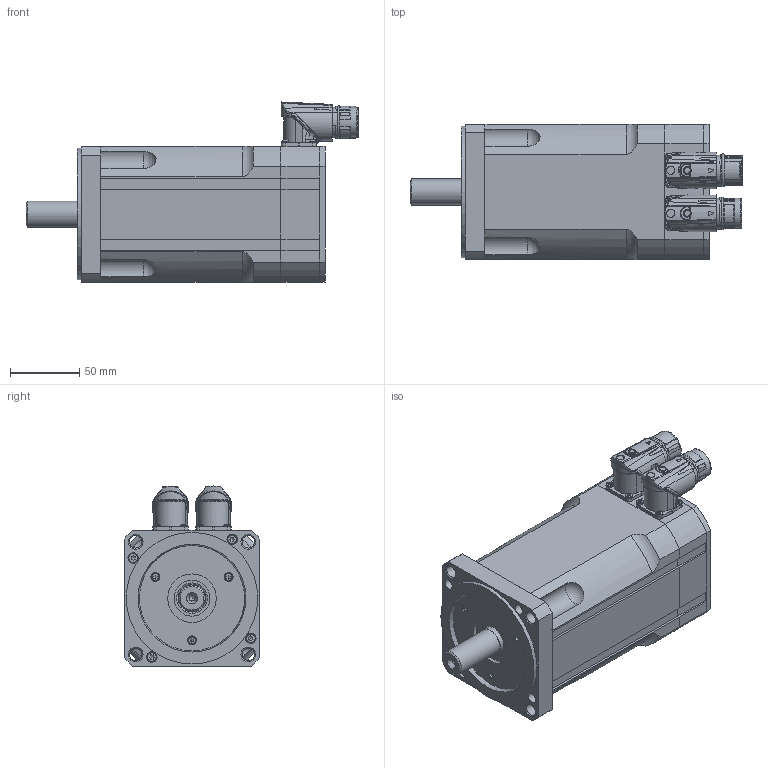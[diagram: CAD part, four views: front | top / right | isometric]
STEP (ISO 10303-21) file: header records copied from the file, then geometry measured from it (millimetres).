
FILE_DESCRIPTION(/* description */ (''),/* implementation_level */ '2;1');
FILE_NAME(/* name */ 'C:\PDF_output\T4000 00 Z_0530_S2_8P_12P.stp',/* time_stamp */ '2020-07-14T11:09:31+02:00',/* author */ ('oslejsek'),/* organization */ (''),/* preprocessor_version */ 'ST-DEVELOPER v18.1',/* originating_system */ 'Autodesk Inventor 2021',/* authorisation */ '');
FILE_SCHEMA (('AUTOMOTIVE_DESIGN { 1 0 10303 214 3 1 1 }'));
Products named in the file (5): T4000 00 Z_0530_S2_8P_12P; T4000 00 Z_front; T4000 00 Z_0530_rear; 125092; 125766
Assembly tree (4 placements, depth 2):
  T4000 00 Z_0530_S2_8P_12P
    T4000 00 Z_front
    T4000 00 Z_0530_rear
    125092
    125766
Bounding box: 239.67 x 98 x 130 mm (x, y, z)
Volume: 1622392.7 mm3; surface area: 129153.2 mm2
Topology: 4 solids, 7 shells, 1678 faces, 4423 edges, 2816 vertices
Faces by surface type: cylinder 690, plane 487, bspline 264, cone 116, torus 85, sphere 36
Full cylindrical faces by diameter (mm): 1 x16, 1.18 x12, 1.2 x12, 1.3 x4, 2 x4, 2.013 x2, 2.15 x4, 2.208 x8, 2.4 x8, 2.5 x8, 2.7 x8, 3 x8, 3.3 x3, 3.95 x4, 4 x4, 4.134 x1, 4.3 x4, 4.5 x2, 5.5 x3, 5.8 x1, 5.9 x2, 6.5 x3, 6.8 x1, 7 x4, 7.5 x4, 8 x5, 8.5 x4, 9 x4, 15.2 x1, 16 x1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
Entity records: 66656 total; most frequent: CARTESIAN_POINT 23920, ORIENTED_EDGE 8772, DIRECTION 8551, EDGE_CURVE 4386, AXIS2_PLACEMENT_3D 3574, VERTEX_POINT 2816, CIRCLE 1976, EDGE_LOOP 1880
